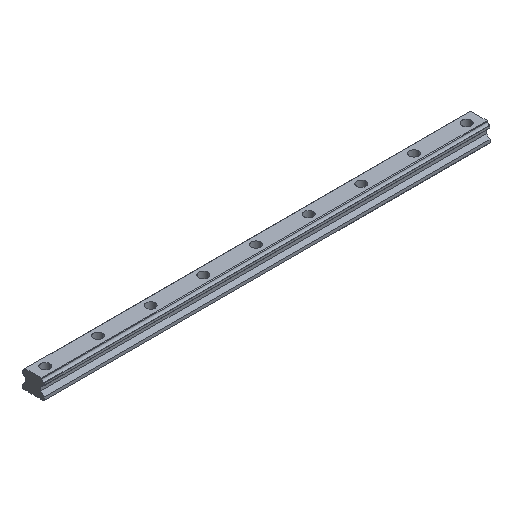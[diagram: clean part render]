
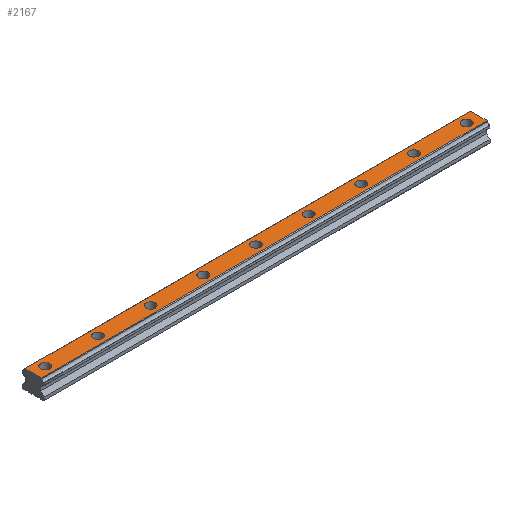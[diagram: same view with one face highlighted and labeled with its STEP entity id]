
A CAD part, isometric view. The second image highlights one B-rep face of the part: STEP entity #2167.
In plain terms, the highlighted planar face has unit normal (0, 0, 1).
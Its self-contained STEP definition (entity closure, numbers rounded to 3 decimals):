
#1612=CARTESIAN_POINT('POINT113',(1235.,-23.1,
   53.));
#1613=VERTEX_POINT('VERTEX113',#1612);
#1620=CARTESIAN_POINT('POINT114',(-35.,-23.1,
   53.));
#1621=VERTEX_POINT('VERTEX114',#1620);
#1622=CARTESIAN_POINT('POS180',(-35.,-23.1,
   53.));
#1623=DIRECTION('DIR260',(1.,0.,0.));
#1624=VECTOR('VEC100',#1623,1.);
#1625=LINE('STRAIGHT100',#1622,#1624);
#1626=EDGE_CURVE('EDGE160',#1621,#1613,#1625,.T.);
#1660=CARTESIAN_POINT('POINT115',(-35.,23.1,
   53.));
#1661=VERTEX_POINT('VERTEX115',#1660);
#1662=CARTESIAN_POINT('POS183',(-35.,23.1,
   53.));
#1663=DIRECTION('DIR264',(0.,-1.,0.));
#1664=VECTOR('VEC102',#1663,1.);
#1665=LINE('STRAIGHT102',#1662,#1664);
#1666=EDGE_CURVE('EDGE162',#1661,#1621,#1665,.T.);
#1695=CARTESIAN_POINT('POINT116',(1235.,23.1,
   53.));
#1696=VERTEX_POINT('VERTEX116',#1695);
#1705=CARTESIAN_POINT('POS187',(-35.,23.1,
   53.));
#1706=DIRECTION('DIR269',(1.,0.,0.));
#1707=VECTOR('VEC105',#1706,1.);
#1708=LINE('STRAIGHT105',#1705,#1707);
#1709=EDGE_CURVE('EDGE165',#1661,#1696,#1708,.T.);
#1735=CARTESIAN_POINT('POS189',(1235.,23.1,
   53.));
#1736=DIRECTION('DIR272',(0.,1.,0.));
#1737=VECTOR('VEC106',#1736,1.);
#1738=LINE('STRAIGHT106',#1735,#1737);
#1739=EDGE_CURVE('EDGE166',#1613,#1696,#1738,.T.);
#1764=CARTESIAN_POINT('POINT117',(163.,0.,
   53.));
#1765=VERTEX_POINT('VERTEX117',#1764);
#1773=CARTESIAN_POINT('POINT118',(137.,0.,
   53.));
#1774=VERTEX_POINT('VERTEX118',#1773);
#1781=CARTESIAN_POINT('POS193',(150.,0.,53.)
   );
#1782=DIRECTION('DIR277',(0.,0.,-1.));
#1783=DIRECTION('DIR278',(1.,0.,0.));
#1784=AXIS2_PLACEMENT_3D('AXIS85',#1781,#1782,#1783);
#1785=CIRCLE('ELLIPSE35',#1784,13.);
#1786=EDGE_CURVE('EDGE169',#1765,#1774,#1785,.T.);
#1797=EDGE_CURVE('EDGE170',#1774,#1765,#1785,.T.);
#1804=CARTESIAN_POINT('POINT119',(313.,0.,
   53.));
#1805=VERTEX_POINT('VERTEX119',#1804);
#1813=CARTESIAN_POINT('POINT120',(287.,0.,
   53.));
#1814=VERTEX_POINT('VERTEX120',#1813);
#1821=CARTESIAN_POINT('POS197',(300.,0.,53.)
   );
#1822=DIRECTION('DIR283',(0.,0.,-1.));
#1823=DIRECTION('DIR284',(1.,0.,0.));
#1824=AXIS2_PLACEMENT_3D('AXIS87',#1821,#1822,#1823);
#1825=CIRCLE('ELLIPSE36',#1824,13.);
#1826=EDGE_CURVE('EDGE173',#1805,#1814,#1825,.T.);
#1837=EDGE_CURVE('EDGE174',#1814,#1805,#1825,.T.);
#1844=CARTESIAN_POINT('POINT121',(463.,
   0.,53.));
#1845=VERTEX_POINT('VERTEX121',#1844);
#1853=CARTESIAN_POINT('POINT122',(437.,
   0.,53.));
#1854=VERTEX_POINT('VERTEX122',#1853);
#1861=CARTESIAN_POINT('POS201',(450.,0.,53.)
   );
#1862=DIRECTION('DIR289',(0.,0.,-1.));
#1863=DIRECTION('DIR290',(1.,0.,0.));
#1864=AXIS2_PLACEMENT_3D('AXIS89',#1861,#1862,#1863);
#1865=CIRCLE('ELLIPSE37',#1864,13.);
#1866=EDGE_CURVE('EDGE177',#1845,#1854,#1865,.T.);
#1877=EDGE_CURVE('EDGE178',#1854,#1845,#1865,.T.);
#1884=CARTESIAN_POINT('POINT123',(613.,
   0.,53.));
#1885=VERTEX_POINT('VERTEX123',#1884);
#1893=CARTESIAN_POINT('POINT124',(587.,
   0.,53.));
#1894=VERTEX_POINT('VERTEX124',#1893);
#1901=CARTESIAN_POINT('POS205',(600.,0.,53.)
   );
#1902=DIRECTION('DIR295',(0.,0.,-1.));
#1903=DIRECTION('DIR296',(1.,0.,0.));
#1904=AXIS2_PLACEMENT_3D('AXIS91',#1901,#1902,#1903);
#1905=CIRCLE('ELLIPSE38',#1904,13.);
#1906=EDGE_CURVE('EDGE181',#1885,#1894,#1905,.T.);
#1917=EDGE_CURVE('EDGE182',#1894,#1885,#1905,.T.);
#1924=CARTESIAN_POINT('POINT125',(763.,
   0.,53.));
#1925=VERTEX_POINT('VERTEX125',#1924);
#1933=CARTESIAN_POINT('POINT126',(737.,
   0.,53.));
#1934=VERTEX_POINT('VERTEX126',#1933);
#1941=CARTESIAN_POINT('POS209',(750.,0.,53.)
   );
#1942=DIRECTION('DIR301',(0.,0.,-1.));
#1943=DIRECTION('DIR302',(1.,0.,0.));
#1944=AXIS2_PLACEMENT_3D('AXIS93',#1941,#1942,#1943);
#1945=CIRCLE('ELLIPSE39',#1944,13.);
#1946=EDGE_CURVE('EDGE185',#1925,#1934,#1945,.T.);
#1957=EDGE_CURVE('EDGE186',#1934,#1925,#1945,.T.);
#1964=CARTESIAN_POINT('POINT127',(913.,
   0.,53.));
#1965=VERTEX_POINT('VERTEX127',#1964);
#1973=CARTESIAN_POINT('POINT128',(887.,
   0.,53.));
#1974=VERTEX_POINT('VERTEX128',#1973);
#1981=CARTESIAN_POINT('POS213',(900.,0.,53.)
   );
#1982=DIRECTION('DIR307',(0.,0.,-1.));
#1983=DIRECTION('DIR308',(1.,0.,0.));
#1984=AXIS2_PLACEMENT_3D('AXIS95',#1981,#1982,#1983);
#1985=CIRCLE('ELLIPSE40',#1984,13.);
#1986=EDGE_CURVE('EDGE189',#1965,#1974,#1985,.T.);
#1997=EDGE_CURVE('EDGE190',#1974,#1965,#1985,.T.);
#2004=CARTESIAN_POINT('POINT129',(1063.,0.,
   53.));
#2005=VERTEX_POINT('VERTEX129',#2004);
#2013=CARTESIAN_POINT('POINT130',(1037.,0.,
   53.));
#2014=VERTEX_POINT('VERTEX130',#2013);
#2021=CARTESIAN_POINT('POS217',(1050.,0.,53.
   ));
#2022=DIRECTION('DIR313',(0.,0.,-1.));
#2023=DIRECTION('DIR314',(1.,0.,0.));
#2024=AXIS2_PLACEMENT_3D('AXIS97',#2021,#2022,#2023);
#2025=CIRCLE('ELLIPSE41',#2024,13.);
#2026=EDGE_CURVE('EDGE193',#2005,#2014,#2025,.T.);
#2037=EDGE_CURVE('EDGE194',#2014,#2005,#2025,.T.);
#2044=CARTESIAN_POINT('POINT131',(1213.,0.,
   53.));
#2045=VERTEX_POINT('VERTEX131',#2044);
#2053=CARTESIAN_POINT('POINT132',(1187.,0.,
   53.));
#2054=VERTEX_POINT('VERTEX132',#2053);
#2061=CARTESIAN_POINT('POS221',(1200.,0.,53.)
   );
#2062=DIRECTION('DIR319',(0.,0.,-1.));
#2063=DIRECTION('DIR320',(1.,0.,0.));
#2064=AXIS2_PLACEMENT_3D('AXIS99',#2061,#2062,#2063);
#2065=CIRCLE('ELLIPSE42',#2064,13.);
#2066=EDGE_CURVE('EDGE197',#2045,#2054,#2065,.T.);
#2077=EDGE_CURVE('EDGE198',#2054,#2045,#2065,.T.);
#2109=ORIENTED_EDGE('COEDGE379',*,*,#2077,.T.);
#2110=ORIENTED_EDGE('COEDGE380',*,*,#2066,.T.);
#2111=EDGE_LOOP('NONE',(#2109,#2110));
#2112=FACE_BOUND('LOOP1',#2111,.T.);
#2113=ORIENTED_EDGE('COEDGE381',*,*,#2037,.T.);
#2114=ORIENTED_EDGE('COEDGE382',*,*,#2026,.T.);
#2115=EDGE_LOOP('NONE',(#2113,#2114));
#2116=FACE_BOUND('LOOP1',#2115,.T.);
#2117=ORIENTED_EDGE('COEDGE383',*,*,#1997,.T.);
#2118=ORIENTED_EDGE('COEDGE384',*,*,#1986,.T.);
#2119=EDGE_LOOP('NONE',(#2117,#2118));
#2120=FACE_BOUND('LOOP1',#2119,.T.);
#2121=ORIENTED_EDGE('COEDGE385',*,*,#1957,.T.);
#2122=ORIENTED_EDGE('COEDGE386',*,*,#1946,.T.);
#2123=EDGE_LOOP('NONE',(#2121,#2122));
#2124=FACE_BOUND('LOOP1',#2123,.T.);
#2125=ORIENTED_EDGE('COEDGE387',*,*,#1917,.T.);
#2126=ORIENTED_EDGE('COEDGE388',*,*,#1906,.T.);
#2127=EDGE_LOOP('NONE',(#2125,#2126));
#2128=FACE_BOUND('LOOP1',#2127,.T.);
#2129=ORIENTED_EDGE('COEDGE389',*,*,#1877,.T.);
#2130=ORIENTED_EDGE('COEDGE390',*,*,#1866,.T.);
#2131=EDGE_LOOP('NONE',(#2129,#2130));
#2132=FACE_BOUND('LOOP1',#2131,.T.);
#2133=ORIENTED_EDGE('COEDGE391',*,*,#1837,.T.);
#2134=ORIENTED_EDGE('COEDGE392',*,*,#1826,.T.);
#2135=EDGE_LOOP('NONE',(#2133,#2134));
#2136=FACE_BOUND('LOOP1',#2135,.T.);
#2137=ORIENTED_EDGE('COEDGE393',*,*,#1797,.T.);
#2138=ORIENTED_EDGE('COEDGE394',*,*,#1786,.T.);
#2139=EDGE_LOOP('NONE',(#2137,#2138));
#2140=FACE_BOUND('LOOP1',#2139,.T.);
#2141=CARTESIAN_POINT('POINT135',(-13.,0.,
   53.));
#2142=VERTEX_POINT('VERTEX135',#2141);
#2143=CARTESIAN_POINT('POINT136',(13.,0.,
   53.));
#2144=VERTEX_POINT('VERTEX136',#2143);
#2145=CARTESIAN_POINT('POS225',(0.,0.,53.)
   );
#2146=DIRECTION('DIR327',(0.,0.,-1.));
#2147=DIRECTION('DIR328',(1.,0.,0.));
#2148=AXIS2_PLACEMENT_3D('AXIS103',#2145,#2146,#2147);
#2149=CIRCLE('ELLIPSE44',#2148,13.);
#2150=EDGE_CURVE('EDGE201',#2142,#2144,#2149,.T.);
#2151=ORIENTED_EDGE('COEDGE395',*,*,#2150,.T.);
#2152=EDGE_CURVE('EDGE202',#2144,#2142,#2149,.T.);
#2153=ORIENTED_EDGE('COEDGE396',*,*,#2152,.T.);
#2154=EDGE_LOOP('NONE',(#2151,#2153));
#2155=FACE_BOUND('LOOP1',#2154,.T.);
#2156=ORIENTED_EDGE('COEDGE397',*,*,#1739,.T.);
#2157=ORIENTED_EDGE('COEDGE398',*,*,#1709,.F.);
#2158=ORIENTED_EDGE('COEDGE399',*,*,#1666,.T.);
#2159=ORIENTED_EDGE('COEDGE400',*,*,#1626,.T.);
#2160=EDGE_LOOP('NONE',(#2156,#2157,#2158,#2159));
#2161=FACE_BOUND('LOOP1',#2160,.T.);
#2162=CARTESIAN_POINT('POS226',(-35.,-23.1,
   53.));
#2163=DIRECTION('DIR329',(0.,0.,1.));
#2164=DIRECTION('DIR330',(1.,0.,0.));
#2165=AXIS2_PLACEMENT_3D('AXIS104',#2162,#2163,#2164);
#2166=PLANE('PLANE39',#2165);
#2167=ADVANCED_FACE('FACE77',(#2112,#2116,#2120,#2124,#2128,#2132,#2136,
   #2140,#2155,#2161),#2166,.T.);
